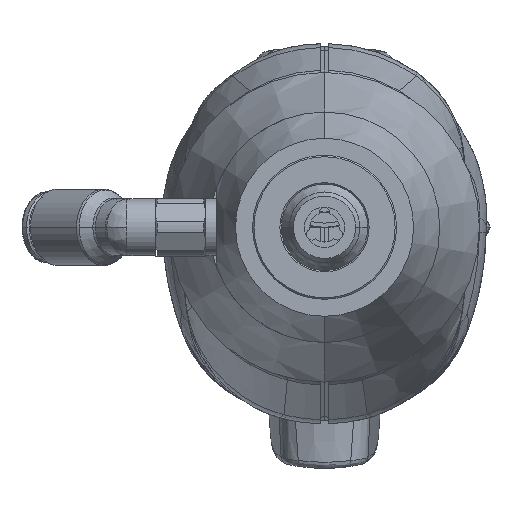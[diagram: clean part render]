
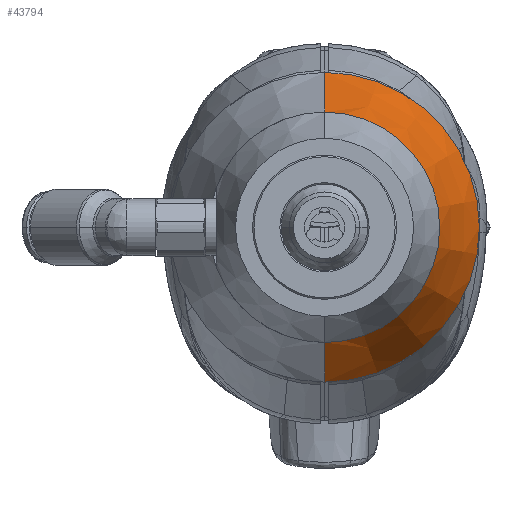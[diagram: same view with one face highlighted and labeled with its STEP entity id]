
A CAD part, front view. The second image highlights one B-rep face of the part: STEP entity #43794.
In plain terms, the highlighted conical face has half-angle 20 degrees and reference radius 16 mm.
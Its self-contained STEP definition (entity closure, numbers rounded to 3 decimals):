
#1362 = VERTEX_POINT ( 'NONE', #55485 ) ;
#1968 = CONICAL_SURFACE ( 'NONE', #33687, 16., 0.349 ) ;
#2566 = DIRECTION ( 'NONE',  ( 0., 1., 0. ) ) ;
#4874 = EDGE_CURVE ( 'NONE', #58364, #34890, #50151, .T. ) ;
#7443 = EDGE_CURVE ( 'NONE', #1362, #66612, #37275, .T. ) ;
#11434 = DIRECTION ( 'NONE',  ( 0., 1., 0. ) ) ;
#13474 = VECTOR ( 'NONE', #65385, 1000. ) ;
#14890 = CARTESIAN_POINT ( 'NONE',  ( -20., 193.411, 101.25 ) ) ;
#15940 = AXIS2_PLACEMENT_3D ( 'NONE', #77580, #23201, #58107 ) ;
#17395 = CARTESIAN_POINT ( 'NONE',  ( -20., 178.3, 101.25 ) ) ;
#23201 = DIRECTION ( 'NONE',  ( 0., 1., 0. ) ) ;
#25678 = ORIENTED_EDGE ( 'NONE', *, *, #7443, .F. ) ;
#29695 = LINE ( 'NONE', #55024, #13474 ) ;
#30020 = LINE ( 'NONE', #31932, #66738 ) ;
#31932 = CARTESIAN_POINT ( 'NONE',  ( -20., 178.3, 117.25 ) ) ;
#33164 = CARTESIAN_POINT ( 'NONE',  ( -20., 178.3, 117.25 ) ) ;
#33687 = AXIS2_PLACEMENT_3D ( 'NONE', #17395, #11434, #78131 ) ;
#34890 = VERTEX_POINT ( 'NONE', #50099 ) ;
#36775 = CARTESIAN_POINT ( 'NONE',  ( -20., 193.411, 79.75 ) ) ;
#37275 = CIRCLE ( 'NONE', #67655, 21.5 ) ;
#43794 = ADVANCED_FACE ( 'NONE', ( #66569 ), #1968, .T. ) ;
#44983 = EDGE_CURVE ( 'NONE', #58364, #1362, #30020, .T. ) ;
#50099 = CARTESIAN_POINT ( 'NONE',  ( -20., 178.3, 85.25 ) ) ;
#50151 = CIRCLE ( 'NONE', #15940, 16. ) ;
#50370 = ORIENTED_EDGE ( 'NONE', *, *, #4874, .T. ) ;
#50988 = DIRECTION ( 'NONE',  ( 0., 0., 1. ) ) ;
#51962 = ORIENTED_EDGE ( 'NONE', *, *, #77639, .T. ) ;
#53966 = ORIENTED_EDGE ( 'NONE', *, *, #44983, .F. ) ;
#55024 = CARTESIAN_POINT ( 'NONE',  ( -20., 178.3, 85.25 ) ) ;
#55313 = EDGE_LOOP ( 'NONE', ( #50370, #51962, #25678, #53966 ) ) ;
#55485 = CARTESIAN_POINT ( 'NONE',  ( -20., 193.411, 122.75 ) ) ;
#58107 = DIRECTION ( 'NONE',  ( 0., 0., 1. ) ) ;
#58364 = VERTEX_POINT ( 'NONE', #33164 ) ;
#62929 = DIRECTION ( 'NONE',  ( 0., 0.94, 0.342 ) ) ;
#65385 = DIRECTION ( 'NONE',  ( 0., 0.94, -0.342 ) ) ;
#66569 = FACE_OUTER_BOUND ( 'NONE', #55313, .T. ) ;
#66612 = VERTEX_POINT ( 'NONE', #36775 ) ;
#66738 = VECTOR ( 'NONE', #62929, 1000. ) ;
#67655 = AXIS2_PLACEMENT_3D ( 'NONE', #14890, #2566, #50988 ) ;
#77580 = CARTESIAN_POINT ( 'NONE',  ( -20., 178.3, 101.25 ) ) ;
#77639 = EDGE_CURVE ( 'NONE', #34890, #66612, #29695, .T. ) ;
#78131 = DIRECTION ( 'NONE',  ( 0., 0., 1. ) ) ;
